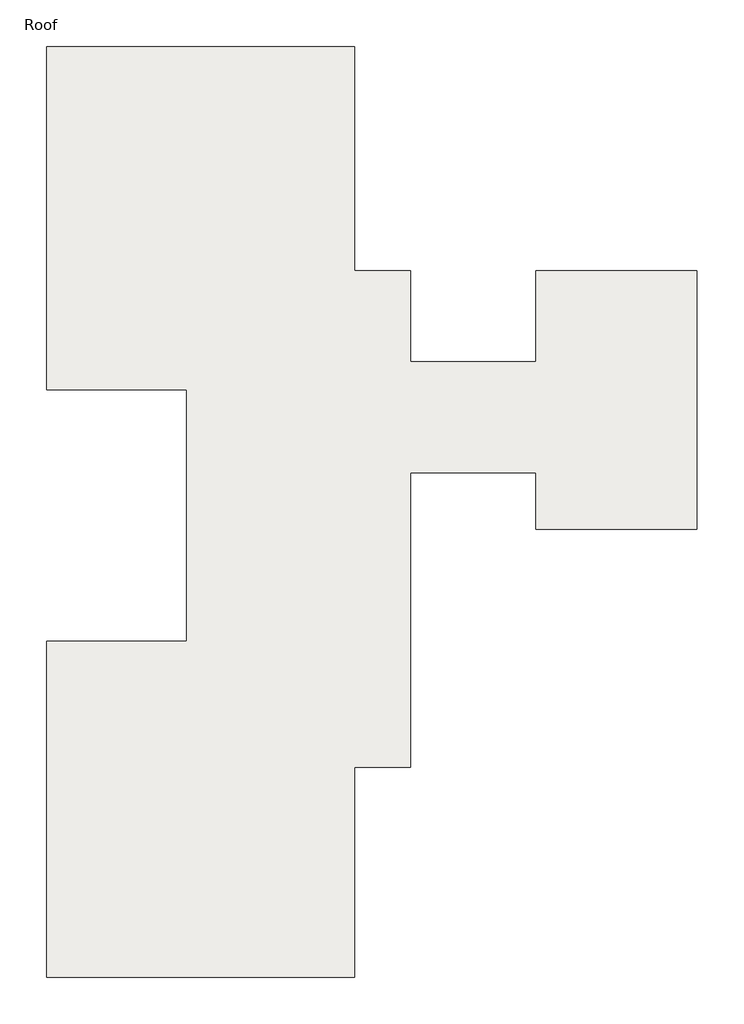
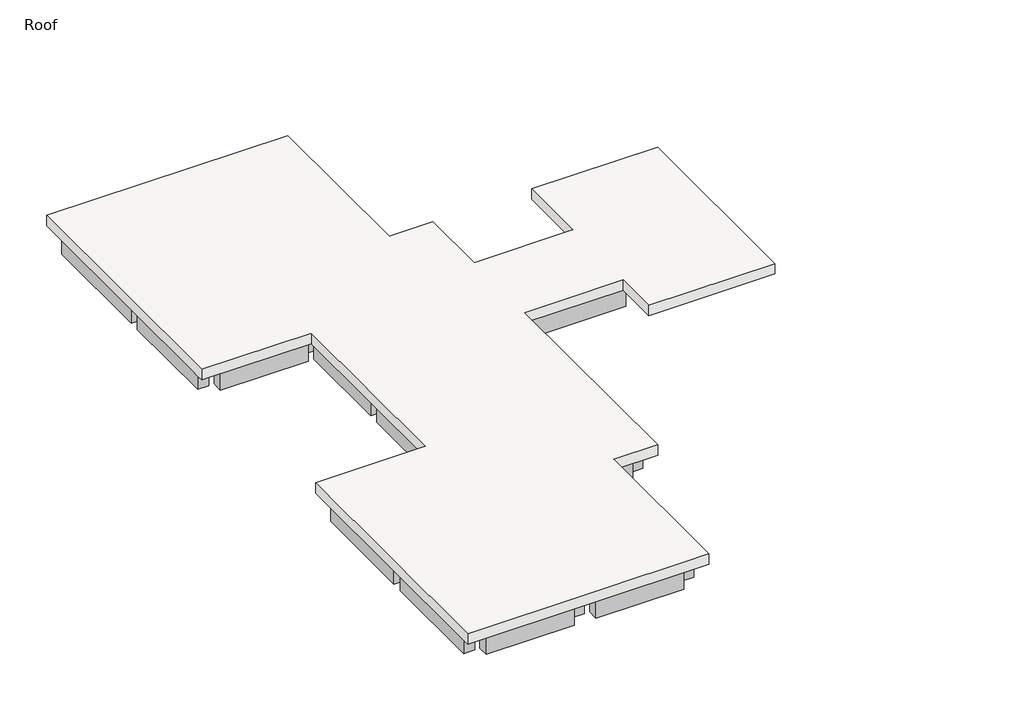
# One storey: 38 beams, 1 slab.
"""IFC4 building model written with IfcOpenShell, lengths in millimetres."""

from ifc_helpers import new_model, si_unit, frame, origin, place, context, project, spatial, polyline, outline, extrude, faceted_brep, element, save

model = new_model("IFC4")

# Units and contexts
model_context = context("Model", 3, world=origin())
ifc_project = project(units=[si_unit("LENGTHUNIT", "METRE", prefix="MILLI")], contexts=[model_context])

# Site, building, storey
site = spatial("IfcSite", under=ifc_project)
building = spatial("IfcBuilding", under=site)
storey = spatial("IfcBuildingStorey", under=building, Name="Roof", Elevation=7620.0)

# Beams
placement = place(None, origin())
element("IfcBeam", 1, ObjectType="Concrete-Rectangular Beam : 12 x 24", at=placement, inside=storey, context=model_context, shape_type="SweptSolid", body=[
    extrude(outline(polyline([(-15067.9554735, 14342.1867088), (-15067.9554735, 14646.9867088), (-12629.5554735, 14646.9867088), (-12629.5554735, 14342.1867088), (-15067.9554735, 14342.1867088)])), frame((0.0, 0.0, 6705.6), z_axis=(0.0, 0.0, 1.0), x_axis=(1.0, 0.0, 0.0)), (0.0, 0.0, 1.0), 609.6),
])
element("IfcBeam", 2, ObjectType="Concrete-Rectangular Beam : 12 x 24", at=placement, inside=storey, context=model_context, shape_type="SweptSolid", body=[
    extrude(outline(polyline([(-12019.9554735, 14342.1867088), (-12019.9554735, 14646.9867088), (-9581.5554735, 14646.9867088), (-9581.5554735, 14342.1867088), (-12019.9554735, 14342.1867088)])), frame((0.0, 0.0, 6705.6), z_axis=(0.0, 0.0, 1.0), x_axis=(1.0, 0.0, 0.0)), (0.0, 0.0, 1.0), 609.6),
])
element("IfcBeam", 3, ObjectType="Concrete-Rectangular Beam : 12 x 24", at=placement, inside=storey, context=model_context, shape_type="SweptSolid", body=[
    extrude(outline(polyline([(-9429.1554735, 14342.1867088), (-9124.3554735, 14342.1867088), (-9124.3554735, 10989.3867088), (-9429.1554735, 10989.3867088), (-9429.1554735, 14342.1867088)])), frame((0.0, 0.0, 6705.6), z_axis=(0.0, 0.0, 1.0), x_axis=(1.0, 0.0, 0.0)), (0.0, 0.0, 1.0), 609.6),
])
element("IfcBeam", 4, ObjectType="Concrete-Rectangular Beam : 12 x 24", at=placement, inside=storey, context=model_context, shape_type="SweptSolid", body=[
    extrude(outline(polyline([(-7905.1554735, 7788.9867088), (-8209.9554735, 7788.9867088), (-8209.9554735, 9465.3867088), (-7905.1554735, 9465.3867088), (-7905.1554735, 7788.9867088)])), frame((0.0, 0.0, 6705.6), z_axis=(0.0, 0.0, 1.0), x_axis=(1.0, 0.0, 0.0)), (0.0, 0.0, 1.0), 609.6),
])
element("IfcBeam", 5, ObjectType="Concrete-Rectangular Beam : 12 x 24", at=placement, inside=storey, context=model_context, shape_type="Brep", body=[
    faceted_brep([(-9429.1554735, 9770.1867088, 7315.2), (-9429.1554735, 9465.3867088, 7315.2), (-8362.3554735, 9465.3867088, 7315.2), (-8362.3554735, 9770.1867088, 7315.2), (-9124.3554735, 9770.1867088, 7315.2), (-9429.1554735, 9770.1867088, 6705.6), (-8362.3554735, 9770.1867088, 6705.6), (-9124.3554735, 9770.1867088, 6705.6), (-9429.1554735, 9465.3867088, 6705.6), (-8362.3554735, 9465.3867088, 6705.6)], [[[0, 1, 2, 3, 4]], [[5, 0, 4, 3, 6, 7]], [[8, 5, 7, 6, 9]], [[1, 8, 9, 2]], [[3, 2, 9, 6]], [[1, 0, 5, 8]]]),
])
element("IfcBeam", 6, ObjectType="Concrete-Rectangular Beam : 12 x 24", at=placement, inside=storey, context=model_context, shape_type="Brep", body=[
    faceted_brep([(-7905.1554735, 7484.1867088, 7315.2), (-8209.9554735, 7484.1867088, 7315.2), (-8209.9554735, 4740.9867088, 7315.2), (-7905.1554735, 4740.9867088, 7315.2), (-7905.1554735, 5655.3867088, 7315.2), (-7905.1554735, 5960.1867088, 7315.2), (-8209.9554735, 7484.1867088, 6705.6), (-8209.9554735, 4740.9867088, 6705.6), (-7905.1554735, 7484.1867088, 6705.6), (-7905.1554735, 5960.1867088, 6705.6), (-7905.1554735, 5655.3867088, 6705.6), (-7905.1554735, 4740.9867088, 6705.6)], [[[0, 1, 2, 3, 4, 5]], [[1, 6, 7, 2]], [[6, 8, 9, 10, 11, 7]], [[8, 0, 5, 4, 3, 11, 10, 9]], [[6, 1, 0, 8]], [[3, 2, 7, 11]]]),
])
element("IfcBeam", 7, ObjectType="Concrete-Rectangular Beam : 12 x 24", at=placement, inside=storey, context=model_context, shape_type="SweptSolid", body=[
    extrude(outline(polyline([(-8209.9554735, 4436.1867088), (-7905.1554735, 4436.1867088), (-7905.1554735, 1692.9867088), (-8209.9554735, 1692.9867088), (-8209.9554735, 4436.1867088)])), frame((0.0, 0.0, 6705.6), z_axis=(0.0, 0.0, 1.0), x_axis=(1.0, 0.0, 0.0)), (0.0, 0.0, 1.0), 609.6),
])
element("IfcBeam", 8, ObjectType="Concrete-Rectangular Beam : 12 x 24", at=placement, inside=storey, context=model_context, shape_type="SweptSolid", body=[
    extrude(outline(polyline([(-8209.9554735, 1388.1867088), (-7905.1554735, 1388.1867088), (-7905.1554735, -440.6132912), (-8209.9554735, -440.6132912), (-8209.9554735, 1388.1867088)])), frame((0.0, 0.0, 6705.6), z_axis=(0.0, 0.0, 1.0), x_axis=(1.0, 0.0, 0.0)), (0.0, 0.0, 1.0), 609.6),
])
element("IfcBeam", 9, ObjectType="Concrete-Rectangular Beam : 12 x 24", at=placement, inside=storey, context=model_context, shape_type="Brep", body=[
    faceted_brep([(-9429.1554735, -440.6132912, 7315.2), (-9429.1554735, -745.4132912, 7315.2), (-9124.3554735, -745.4132912, 7315.2), (-8362.3554735, -745.4132912, 7315.2), (-8362.3554735, -440.6132912, 7315.2), (-9429.1554735, -440.6132912, 6705.6), (-8362.3554735, -440.6132912, 6705.6), (-9429.1554735, -745.4132912, 6705.6), (-8362.3554735, -745.4132912, 6705.6), (-9124.3554735, -745.4132912, 6705.6)], [[[0, 1, 2, 3, 4]], [[5, 0, 4, 6]], [[7, 5, 6, 8, 9]], [[1, 7, 9, 8, 3, 2]], [[4, 3, 8, 6]], [[1, 0, 5, 7]]]),
])
element("IfcBeam", 10, ObjectType="Concrete-Rectangular Beam : 12 x 24", at=placement, inside=storey, context=model_context, shape_type="SweptSolid", body=[
    extrude(outline(polyline([(-9429.1554735, -745.4132912), (-9124.3554735, -745.4132912), (-9124.3554735, -1659.8132912), (-9429.1554735, -1659.8132912), (-9429.1554735, -745.4132912)])), frame((0.0, 0.0, 6705.6), z_axis=(0.0, 0.0, 1.0), x_axis=(1.0, 0.0, 0.0)), (0.0, 0.0, 1.0), 609.6),
])
element("IfcBeam", 11, ObjectType="Concrete-Rectangular Beam : 12 x 24", at=placement, inside=storey, context=model_context, shape_type="SweptSolid", body=[
    extrude(outline(polyline([(-9429.1554735, -1964.6132912), (-9124.3554735, -1964.6132912), (-9124.3554735, -5012.6132912), (-9429.1554735, -5012.6132912), (-9429.1554735, -1964.6132912)])), frame((0.0, 0.0, 6705.6), z_axis=(0.0, 0.0, 1.0), x_axis=(1.0, 0.0, 0.0)), (0.0, 0.0, 1.0), 609.6),
])
element("IfcBeam", 12, ObjectType="Concrete-Rectangular Beam : 12 x 24", at=placement, inside=storey, context=model_context, shape_type="SweptSolid", body=[
    extrude(outline(polyline([(-12019.9554735, -5317.4132912), (-12019.9554735, -5012.6132912), (-9581.5554735, -5012.6132912), (-9581.5554735, -5317.4132912), (-12019.9554735, -5317.4132912)])), frame((0.0, 0.0, 6705.6), z_axis=(0.0, 0.0, 1.0), x_axis=(1.0, 0.0, 0.0)), (0.0, 0.0, 1.0), 609.6),
])
element("IfcBeam", 13, ObjectType="Concrete-Rectangular Beam : 12 x 24", at=placement, inside=storey, context=model_context, shape_type="SweptSolid", body=[
    extrude(outline(polyline([(-12629.5554735, -5012.6132912), (-12629.5554735, -5317.4132912), (-15067.9554735, -5317.4132912), (-15067.9554735, -5012.6132912), (-12629.5554735, -5012.6132912)])), frame((0.0, 0.0, 6705.6), z_axis=(0.0, 0.0, 1.0), x_axis=(1.0, 0.0, 0.0)), (0.0, 0.0, 1.0), 609.6),
])
element("IfcBeam", 14, ObjectType="Concrete-Rectangular Beam : 12 x 24", at=placement, inside=storey, context=model_context, shape_type="SweptSolid", body=[
    extrude(outline(polyline([(-15220.3554735, -5012.6132912), (-15525.1554735, -5012.6132912), (-15525.1554735, -1964.6132912), (-15220.3554735, -1964.6132912), (-15220.3554735, -5012.6132912)])), frame((0.0, 0.0, 6705.6), z_axis=(0.0, 0.0, 1.0), x_axis=(1.0, 0.0, 0.0)), (0.0, 0.0, 1.0), 609.6),
])
element("IfcBeam", 15, ObjectType="Concrete-Rectangular Beam : 12 x 24", at=placement, inside=storey, context=model_context, shape_type="SweptSolid", body=[
    extrude(outline(polyline([(-15220.3554735, -1659.8132912), (-15525.1554735, -1659.8132912), (-15525.1554735, 1388.1867088), (-15220.3554735, 1388.1867088), (-15220.3554735, -1659.8132912)])), frame((0.0, 0.0, 6705.6), z_axis=(0.0, 0.0, 1.0), x_axis=(1.0, 0.0, 0.0)), (0.0, 0.0, 1.0), 609.6),
])
element("IfcBeam", 16, ObjectType="Concrete-Rectangular Beam : 12 x 24", at=placement, inside=storey, context=model_context, shape_type="SweptSolid", body=[
    extrude(outline(polyline([(-15525.1554735, 14342.1867088), (-15220.3554735, 14342.1867088), (-15220.3554735, 10989.3867088), (-15525.1554735, 10989.3867088), (-15525.1554735, 14342.1867088)])), frame((0.0, 0.0, 6705.6), z_axis=(0.0, 0.0, 1.0), x_axis=(1.0, 0.0, 0.0)), (0.0, 0.0, 1.0), 609.6),
])
element("IfcBeam", 17, ObjectType="Concrete-Rectangular Beam : 12 x 24", at=placement, inside=storey, context=model_context, shape_type="SweptSolid", body=[
    extrude(outline(polyline([(-12477.1554735, 14342.1867088), (-12172.3554735, 14342.1867088), (-12172.3554735, 10989.3867088), (-12477.1554735, 10989.3867088), (-12477.1554735, 14342.1867088)])), frame((0.0, 0.0, 6705.6), z_axis=(0.0, 0.0, 1.0), x_axis=(1.0, 0.0, 0.0)), (0.0, 0.0, 1.0), 609.6),
])
element("IfcBeam", 18, ObjectType="Concrete-Rectangular Beam : 12 x 24", at=placement, inside=storey, context=model_context, shape_type="SweptSolid", body=[
    extrude(outline(polyline([(-15067.9554735, 10684.5867088), (-15067.9554735, 10989.3867088), (-12629.5554735, 10989.3867088), (-12629.5554735, 10684.5867088), (-15067.9554735, 10684.5867088)])), frame((0.0, 0.0, 6705.6), z_axis=(0.0, 0.0, 1.0), x_axis=(1.0, 0.0, 0.0)), (0.0, 0.0, 1.0), 609.6),
])
element("IfcBeam", 19, ObjectType="Concrete-Rectangular Beam : 12 x 24", at=placement, inside=storey, context=model_context, shape_type="SweptSolid", body=[
    extrude(outline(polyline([(-12477.1554735, 10836.9867088), (-12172.3554735, 10836.9867088), (-12172.3554735, 7788.9867088), (-12477.1554735, 7788.9867088), (-12477.1554735, 10836.9867088)])), frame((0.0, 0.0, 6705.6), z_axis=(0.0, 0.0, 1.0), x_axis=(1.0, 0.0, 0.0)), (0.0, 0.0, 1.0), 609.6),
])
element("IfcBeam", 20, ObjectType="Concrete-Rectangular Beam : 12 x 24", at=placement, inside=storey, context=model_context, shape_type="SweptSolid", body=[
    extrude(outline(polyline([(-12477.1554735, 7484.1867088), (-12172.3554735, 7484.1867088), (-12172.3554735, 4740.9867088), (-12477.1554735, 4740.9867088), (-12477.1554735, 7484.1867088)])), frame((0.0, 0.0, 6705.6), z_axis=(0.0, 0.0, 1.0), x_axis=(1.0, 0.0, 0.0)), (0.0, 0.0, 1.0), 609.6),
])
element("IfcBeam", 21, ObjectType="Concrete-Rectangular Beam : 12 x 24", at=placement, inside=storey, context=model_context, shape_type="SweptSolid", body=[
    extrude(outline(polyline([(-12477.1554735, 4436.1867088), (-12172.3554735, 4436.1867088), (-12172.3554735, 1692.9867088), (-12477.1554735, 1692.9867088), (-12477.1554735, 4436.1867088)])), frame((0.0, 0.0, 6705.6), z_axis=(0.0, 0.0, 1.0), x_axis=(1.0, 0.0, 0.0)), (0.0, 0.0, 1.0), 609.6),
])
element("IfcBeam", 22, ObjectType="Concrete-Rectangular Beam : 12 x 24", at=placement, inside=storey, context=model_context, shape_type="SweptSolid", body=[
    extrude(outline(polyline([(-12477.1554735, 1388.1867088), (-12172.3554735, 1388.1867088), (-12172.3554735, -1659.8132912), (-12477.1554735, -1659.8132912), (-12477.1554735, 1388.1867088)])), frame((0.0, 0.0, 6705.6), z_axis=(0.0, 0.0, 1.0), x_axis=(1.0, 0.0, 0.0)), (0.0, 0.0, 1.0), 609.6),
])
element("IfcBeam", 23, ObjectType="Concrete-Rectangular Beam : 12 x 24", at=placement, inside=storey, context=model_context, shape_type="SweptSolid", body=[
    extrude(outline(polyline([(-12172.3554735, -5012.6132912), (-12477.1554735, -5012.6132912), (-12477.1554735, -1964.6132912), (-12172.3554735, -1964.6132912), (-12172.3554735, -5012.6132912)])), frame((0.0, 0.0, 6705.6), z_axis=(0.0, 0.0, 1.0), x_axis=(1.0, 0.0, 0.0)), (0.0, 0.0, 1.0), 609.6),
])
element("IfcBeam", 24, ObjectType="Concrete-Rectangular Beam : 12 x 24", at=placement, inside=storey, context=model_context, shape_type="SweptSolid", body=[
    extrude(outline(polyline([(-15525.1554735, 10684.5867088), (-15220.3554735, 10684.5867088), (-15220.3554735, 7788.9867088), (-15525.1554735, 7788.9867088), (-15525.1554735, 10684.5867088)])), frame((0.0, 0.0, 6705.6), z_axis=(0.0, 0.0, 1.0), x_axis=(1.0, 0.0, 0.0)), (0.0, 0.0, 1.0), 609.6),
])
element("IfcBeam", 25, ObjectType="Concrete-Rectangular Beam : 12 x 24", at=placement, inside=storey, context=model_context, shape_type="SweptSolid", body=[
    extrude(outline(polyline([(-15067.9554735, 7484.1867088), (-15067.9554735, 7788.9867088), (-12629.5554735, 7788.9867088), (-12629.5554735, 7484.1867088), (-15067.9554735, 7484.1867088)])), frame((0.0, 0.0, 6705.6), z_axis=(0.0, 0.0, 1.0), x_axis=(1.0, 0.0, 0.0)), (0.0, 0.0, 1.0), 609.6),
])
element("IfcBeam", 26, ObjectType="Concrete-Rectangular Beam : 12 x 24", at=placement, inside=storey, context=model_context, shape_type="SweptSolid", body=[
    extrude(outline(polyline([(-12019.9554735, 1388.1867088), (-12019.9554735, 1692.9867088), (-8362.3554735, 1692.9867088), (-8362.3554735, 1388.1867088), (-12019.9554735, 1388.1867088)])), frame((0.0, 0.0, 6705.6), z_axis=(0.0, 0.0, 1.0), x_axis=(1.0, 0.0, 0.0)), (0.0, 0.0, 1.0), 609.6),
])
element("IfcBeam", 27, ObjectType="Concrete-Rectangular Beam : 12 x 24", at=placement, inside=storey, context=model_context, shape_type="SweptSolid", body=[
    extrude(outline(polyline([(-4552.3554735, 5655.3867088), (-4552.3554735, 5960.1867088), (-1961.5554735, 5960.1867088), (-1961.5554735, 5655.3867088), (-4552.3554735, 5655.3867088)])), frame((0.0, 0.0, 6705.6), z_axis=(0.0, 0.0, 1.0), x_axis=(1.0, 0.0, 0.0)), (0.0, 0.0, 1.0), 609.6),
])
element("IfcBeam", 28, ObjectType="Concrete-Rectangular Beam : 12 x 24", at=placement, inside=storey, context=model_context, shape_type="SweptSolid", body=[
    extrude(outline(polyline([(-4857.1554735, 7788.9867088), (-4857.1554735, 7484.1867088), (-7752.7554735, 7484.1867088), (-7752.7554735, 7788.9867088), (-4857.1554735, 7788.9867088)])), frame((0.0, 0.0, 6705.6), z_axis=(0.0, 0.0, 1.0), x_axis=(1.0, 0.0, 0.0)), (0.0, 0.0, 1.0), 609.6),
])
element("IfcBeam", 29, ObjectType="Concrete-Rectangular Beam : 12 x 24", at=placement, inside=storey, context=model_context, shape_type="SweptSolid", body=[
    extrude(outline(polyline([(-4857.1554735, 5960.1867088), (-4857.1554735, 5655.3867088), (-7905.1554735, 5655.3867088), (-7905.1554735, 5960.1867088), (-4857.1554735, 5960.1867088)])), frame((0.0, 0.0, 6705.6), z_axis=(0.0, 0.0, 1.0), x_axis=(1.0, 0.0, 0.0)), (0.0, 0.0, 1.0), 609.6),
])
element("IfcBeam", 30, ObjectType="Concrete-Rectangular Beam : 12 x 24", at=placement, inside=storey, context=model_context, shape_type="SweptSolid", body=[
    extrude(outline(polyline([(-4552.3554735, 7484.1867088), (-4552.3554735, 7788.9867088), (-1961.5554735, 7788.9867088), (-1961.5554735, 7484.1867088), (-4552.3554735, 7484.1867088)])), frame((0.0, 0.0, 6705.6), z_axis=(0.0, 0.0, 1.0), x_axis=(1.0, 0.0, 0.0)), (0.0, 0.0, 1.0), 609.6),
])
element("IfcBeam", 31, ObjectType="Concrete-Rectangular Beam : 12 x 24", at=placement, inside=storey, context=model_context, shape_type="SweptSolid", body=[
    extrude(outline(polyline([(-12477.1554735, 10684.5867088), (-12172.3554735, 10684.5867088), (-12172.3554735, 7788.9867088), (-12477.1554735, 7788.9867088), (-12477.1554735, 10684.5867088)])), frame((0.0, 0.0, 6705.6), z_axis=(0.0, 0.0, 1.0), x_axis=(1.0, 0.0, 0.0)), (0.0, 0.0, 1.0), 609.6),
])
element("IfcBeam", 32, ObjectType="Concrete-Rectangular Beam : 12 x 24", at=placement, inside=storey, context=model_context, shape_type="SweptSolid", body=[
    extrude(outline(polyline([(-12019.9554735, 10684.5867088), (-12019.9554735, 10989.3867088), (-9581.5554735, 10989.3867088), (-9581.5554735, 10684.5867088), (-12019.9554735, 10684.5867088)])), frame((0.0, 0.0, 6705.6), z_axis=(0.0, 0.0, 1.0), x_axis=(1.0, 0.0, 0.0)), (0.0, 0.0, 1.0), 609.6),
])
element("IfcBeam", 33, ObjectType="Concrete-Rectangular Beam : 12 x 24", at=placement, inside=storey, context=model_context, shape_type="SweptSolid", body=[
    extrude(outline(polyline([(-12629.5554735, -1659.8132912), (-12629.5554735, -1964.6132912), (-15067.9554735, -1964.6132912), (-15067.9554735, -1659.8132912), (-12629.5554735, -1659.8132912)])), frame((0.0, 0.0, 6705.6), z_axis=(0.0, 0.0, 1.0), x_axis=(1.0, 0.0, 0.0)), (0.0, 0.0, 1.0), 609.6),
])
element("IfcBeam", 34, ObjectType="Concrete-Rectangular Beam : 12 x 24", at=placement, inside=storey, context=model_context, shape_type="SweptSolid", body=[
    extrude(outline(polyline([(-12629.5554735, 1692.9867088), (-12629.5554735, 1388.1867088), (-15067.9554735, 1388.1867088), (-15067.9554735, 1692.9867088), (-12629.5554735, 1692.9867088)])), frame((0.0, 0.0, 6705.6), z_axis=(0.0, 0.0, 1.0), x_axis=(1.0, 0.0, 0.0)), (0.0, 0.0, 1.0), 609.6),
])
element("IfcBeam", 35, ObjectType="Concrete-Rectangular Beam : 12 x 24", at=placement, inside=storey, context=model_context, shape_type="SweptSolid", body=[
    extrude(outline(polyline([(-12019.9554735, -1964.6132912), (-12019.9554735, -1659.8132912), (-9581.5554735, -1659.8132912), (-9581.5554735, -1964.6132912), (-12019.9554735, -1964.6132912)])), frame((0.0, 0.0, 6705.6), z_axis=(0.0, 0.0, 1.0), x_axis=(1.0, 0.0, 0.0)), (0.0, 0.0, 1.0), 609.6),
])
element("IfcBeam", 36, ObjectType="Concrete-Rectangular Beam : 12 x 24", at=placement, inside=storey, context=model_context, shape_type="SweptSolid", body=[
    extrude(outline(polyline([(-9124.3554735, 9770.1867088), (-9429.1554735, 9770.1867088), (-9429.1554735, 10684.5867088), (-9124.3554735, 10684.5867088), (-9124.3554735, 9770.1867088)])), frame((0.0, 0.0, 6705.6), z_axis=(0.0, 0.0, 1.0), x_axis=(1.0, 0.0, 0.0)), (0.0, 0.0, 1.0), 609.6),
])
element("IfcBeam", 37, ObjectType="Concrete-Rectangular Beam : 12 x 24", at=placement, inside=storey, context=model_context, shape_type="SweptSolid", body=[
    extrude(outline(polyline([(-8362.3554735, 7788.9867088), (-8362.3554735, 7484.1867088), (-12019.9554735, 7484.1867088), (-12019.9554735, 7788.9867088), (-8362.3554735, 7788.9867088)])), frame((0.0, 0.0, 6705.6), z_axis=(0.0, 0.0, 1.0), x_axis=(1.0, 0.0, 0.0)), (0.0, 0.0, 1.0), 609.6),
])
element("IfcBeam", 38, ObjectType="Concrete-Rectangular Beam : 12 x 24", at=placement, inside=storey, context=model_context, shape_type="SweptSolid", body=[
    extrude(outline(polyline([(-12019.9554735, 4436.1867088), (-12019.9554735, 4740.9867088), (-8362.3554735, 4740.9867088), (-8362.3554735, 4436.1867088), (-12019.9554735, 4436.1867088)])), frame((0.0, 0.0, 6705.6), z_axis=(0.0, 0.0, 1.0), x_axis=(1.0, 0.0, 0.0)), (0.0, 0.0, 1.0), 609.6),
])

# Slab
element("IfcSlab", 39, ObjectType="Generic - 12\"", at=placement, inside=storey, context=model_context, shape_type="Brep", body=[
    faceted_brep([(-8971.9554735, 14799.3867088, 7315.2), (-8971.9554735, 14646.9867088, 7315.2), (-8971.9554735, 14342.1867088, 7315.2), (-8971.9554735, 10989.3867088, 7315.2), (-8971.9554735, 10684.5867088, 7315.2), (-8971.9554735, 9922.5867088, 7315.2), (-7752.7554735, 9922.5867088, 7315.2), (-7752.7554735, 9770.1867088, 7315.2), (-7752.7554735, 9465.3867088, 7315.2), (-7752.7554735, 7941.3867088, 7315.2), (-5009.5554735, 7941.3867088, 7315.2), (-5009.5554735, 9922.5867088, 7315.2), (-1504.3554735, 9922.5867088, 7315.2), (-1504.3554735, 4283.7867088, 7315.2), (-5009.5554735, 4283.7867088, 7315.2), (-5009.5554735, 5516.5265407, 7315.2), (-7752.7554735, 5516.5265407, 7315.2), (-7752.7554735, 4740.9867088, 7315.2), (-7752.7554735, 4436.1867088, 7315.2), (-7752.7554735, 1692.9867088, 7315.2), (-7752.7554735, 1388.1867088, 7315.2), (-7752.7554735, -440.6132912, 7315.2), (-7752.7554735, -745.4132912, 7315.2), (-7752.7554735, -897.8132912, 7315.2), (-8971.9554735, -897.8132912, 7315.2), (-8971.9554735, -1659.8132912, 7315.2), (-8971.9554735, -1964.6132912, 7315.2), (-8971.9554735, -5012.6132912, 7315.2), (-8971.9554735, -5317.4132912, 7315.2), (-8971.9554735, -5469.8132912, 7315.2), (-15677.5554735, -5469.8132912, 7315.2), (-15677.5554735, -5317.4132912, 7315.2), (-15677.5554735, -5012.6132912, 7315.2), (-15677.5554735, -1964.6132912, 7315.2), (-15677.5554735, -1659.8132912, 7315.2), (-15677.5554735, 1388.1867088, 7315.2), (-15677.5554735, 1692.9867088, 7315.2), (-15677.5554735, 1845.3867088, 7315.2), (-12629.5554735, 1845.3867088, 7315.2), (-12629.5554735, 4436.1867088, 7315.2), (-12629.5554735, 4740.9867088, 7315.2), (-12629.5554735, 7331.7867088, 7315.2), (-15677.5554735, 7331.7867088, 7315.2), (-15677.5554735, 7484.1867088, 7315.2), (-15677.5554735, 7788.9867088, 7315.2), (-15677.5554735, 10684.5867088, 7315.2), (-15677.5554735, 10989.3867088, 7315.2), (-15677.5554735, 14342.1867088, 7315.2), (-15677.5554735, 14646.9867088, 7315.2), (-15677.5554735, 14799.3867088, 7315.2), (-8971.9554735, 14799.3867088, 7620.0), (-15677.5554735, 14799.3867088, 7620.0), (-15677.5554735, 7331.7867088, 7620.0), (-12629.5554735, 7331.7867088, 7620.0), (-12629.5554735, 1845.3867088, 7620.0), (-15677.5554735, 1845.3867088, 7620.0), (-15677.5554735, -5469.8132912, 7620.0), (-8971.9554735, -5469.8132912, 7620.0), (-8971.9554735, -897.8132912, 7620.0), (-7752.7554735, -897.8132912, 7620.0), (-7752.7554735, 5516.5265407, 7620.0), (-5009.5554735, 5516.5265407, 7620.0), (-5009.5554735, 4283.7867088, 7620.0), (-1504.3554735, 4283.7867088, 7620.0), (-1504.3554735, 9922.5867088, 7620.0), (-5009.5554735, 9922.5867088, 7620.0), (-5009.5554735, 7941.3867088, 7620.0), (-7752.7554735, 7941.3867088, 7620.0), (-7752.7554735, 9922.5867088, 7620.0), (-8971.9554735, 9922.5867088, 7620.0)], [[[0, 1, 2, 3, 4, 5, 6, 7, 8, 9, 10, 11, 12, 13, 14, 15, 16, 17, 18, 19, 20, 21, 22, 23, 24, 25, 26, 27, 28, 29, 30, 31, 32, 33, 34, 35, 36, 37, 38, 39, 40, 41, 42, 43, 44, 45, 46, 47, 48, 49]], [[50, 51, 52, 53, 54, 55, 56, 57, 58, 59, 60, 61, 62, 63, 64, 65, 66, 67, 68, 69]], [[5, 4, 3, 2, 1, 0, 50, 69]], [[6, 5, 69, 68]], [[9, 8, 7, 6, 68, 67]], [[10, 9, 67, 66]], [[11, 10, 66, 65]], [[12, 11, 65, 64]], [[13, 12, 64, 63]], [[14, 13, 63, 62]], [[15, 14, 62, 61]], [[16, 15, 61, 60]], [[23, 22, 21, 20, 19, 18, 17, 16, 60, 59]], [[24, 23, 59, 58]], [[29, 28, 27, 26, 25, 24, 58, 57]], [[30, 29, 57, 56]], [[37, 36, 35, 34, 33, 32, 31, 30, 56, 55]], [[38, 37, 55, 54]], [[41, 40, 39, 38, 54, 53]], [[42, 41, 53, 52]], [[49, 48, 47, 46, 45, 44, 43, 42, 52, 51]], [[0, 49, 51, 50]]]),
])

save(model, "model.ifc")
